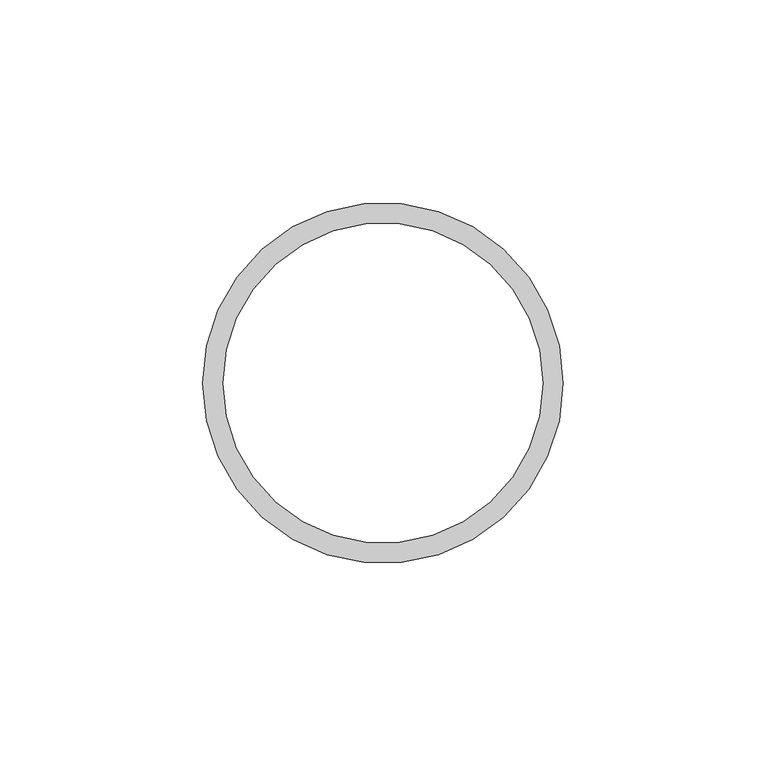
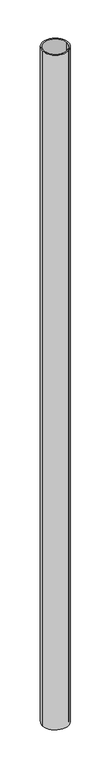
"""IFC4 building model written with IfcOpenShell, lengths in millimetres: column geometry, NLRS_28_SC_TLB_kolom buis_generiek_ISR : ø88.9x5 ."""

from ifc_helpers import new_model, si_unit, point, frame, origin, origin_2d, place, context, project, spatial, circle_curve, trimmed, segment, composite_curve, outline, extrude, source, transform, mapped, element, save


def column_ffe7df0a(model_context):
    return source(origin(), model_context, "Body", "SweptSolid", [
        extrude(outline(composite_curve([segment(trimmed(circle_curve(origin_2d(), 44.45), [point((44.45, 0.0))], [point((-44.45, 0.0))], False, "CARTESIAN"), True, "CONTINUOUS"), segment(trimmed(circle_curve(origin_2d(), 44.45), [point((-44.45, 0.0))], [point((44.45, 0.0))], False, "CARTESIAN"), True, "CONTINUOUS")], self_intersect=False), holes=[composite_curve([segment(trimmed(circle_curve(origin_2d(), 39.45), [point((39.45, 0.0))], [point((-39.45, 0.0))], True, "CARTESIAN"), True, "CONTINUOUS"), segment(trimmed(circle_curve(origin_2d(), 39.45), [point((-39.45, 0.0))], [point((39.45, 0.0))], True, "CARTESIAN"), True, "CONTINUOUS")], self_intersect=False)]), frame((0.0, 0.0, 3500.0), z_axis=(0.0, 0.0, 1.0), x_axis=(1.0, 0.0, 0.0)), (0.0, 0.0, 1.0), 2450.0),
    ])


if __name__ == "__main__":
    model = new_model("IFC4")
    model_context = context("Model", 3, world=origin())
    ifc_project = project(units=[si_unit("LENGTHUNIT", "METRE", prefix="MILLI")], contexts=[model_context])
    site = spatial("IfcSite", under=ifc_project)
    building = spatial("IfcBuilding", under=site)
    placement = place(None, origin())
    column_shape = column_ffe7df0a(model_context)
    element("IfcColumn", 1, ObjectType="NLRS_28_SC_TLB_kolom buis_generiek_ISR : ø88.9x5 ", at=placement, inside=building, context=model_context, shape_type="MappedRepresentation", body=[
        mapped(column_shape, transform((0.0, 0.0, 0.0), x_axis=(1.0, 0.0, 0.0), y_axis=(0.0, 1.0, 0.0), z_axis=(0.0, 0.0, 1.0))),
    ])
    save(model, "model.ifc")
